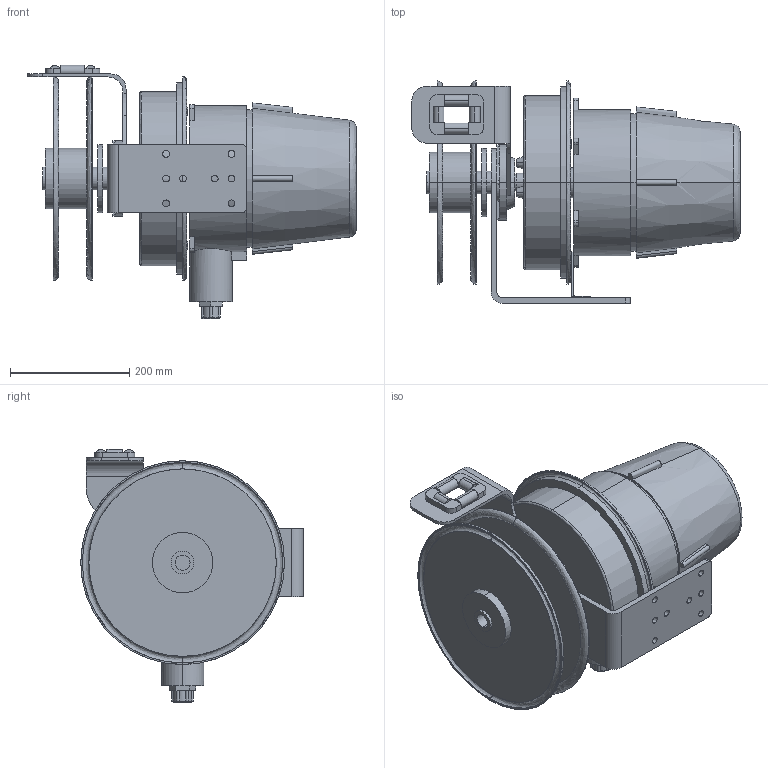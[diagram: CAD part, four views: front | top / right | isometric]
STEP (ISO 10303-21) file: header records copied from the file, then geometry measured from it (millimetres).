
FILE_DESCRIPTION (( 'STEP AP214' ), '1' );
FILE_NAME ('50ft EP Cord Reel.STEP', '2016-10-26T19:41:19', ( '' ), ( '' ), 'SwSTEP 2.0', 'SolidWorks 2016', '' );
FILE_SCHEMA (( 'AUTOMOTIVE_DESIGN' ));
Length unit declared in the file: inch
Products named in the file (1): 50ft EP Cord Reel
Bounding box: 550.7 x 373.26 x 424.61 mm (x, y, z)
Volume: 18708562.8 mm3; surface area: 1251973 mm2
Topology: 1 solids, 1 shells, 363 faces, 927 edges, 589 vertices
Faces by surface type: plane 178, cylinder 133, bspline 42, cone 10
Entity records: 12245 total; most frequent: CARTESIAN_POINT 3198, DIRECTION 1959, ORIENTED_EDGE 1854, EDGE_CURVE 927, AXIS2_PLACEMENT_3D 748, VERTEX_POINT 589, LINE 463, VECTOR 463
